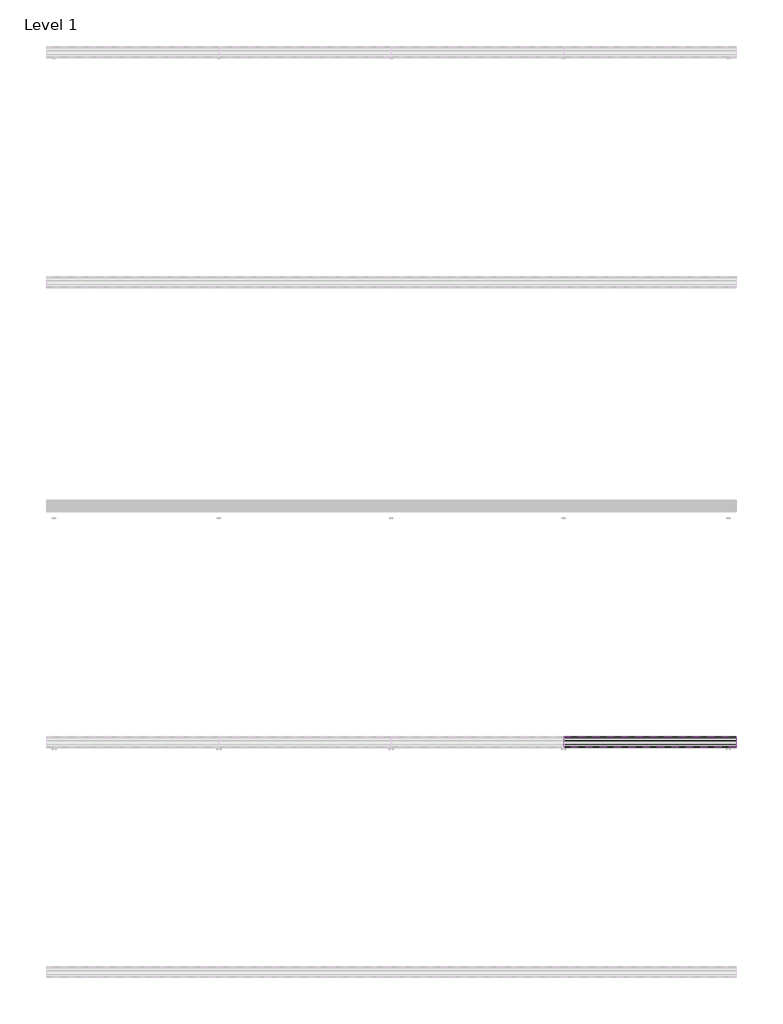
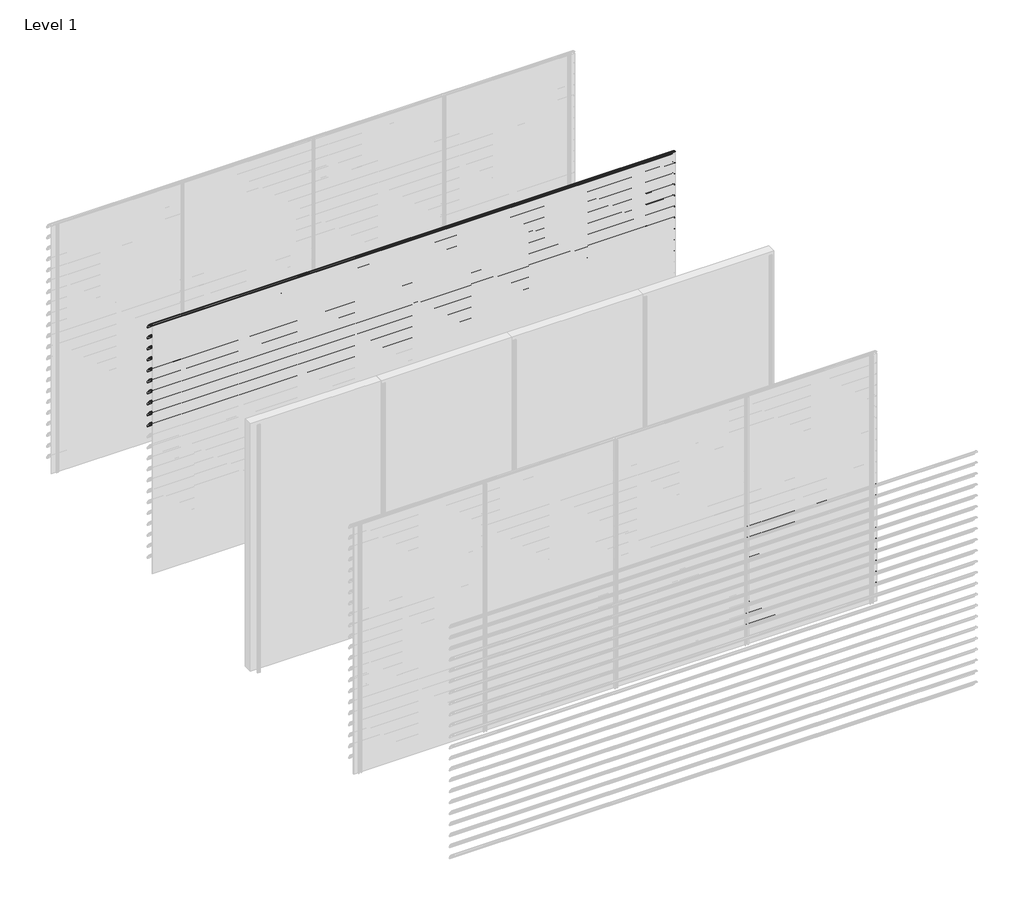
# One storey, part 52 of 57: 20 proxies.
"""IFC4 building model written with IfcOpenShell, lengths in millimetres."""

from ifc_helpers import new_model, si_unit, point, frame, frame_2d, origin, place, context, project, spatial, polyline, circle_curve, trimmed, segment, composite_curve, outline, extrude, element, save

model = new_model("IFC4")

# Units and contexts
model_context = context("Model", 3, world=origin())
ifc_project = project(units=[si_unit("LENGTHUNIT", "METRE", prefix="MILLI")], contexts=[model_context])

# Site, building, storey
site = spatial("IfcSite", under=ifc_project)
building = spatial("IfcBuilding", under=site)
storey = spatial("IfcBuildingStorey", under=building, Name="Level 1", Elevation=0.0)

# Proxies
placement = place(None, origin())
element("IfcBuildingElementProxy", 1, Name="Wall Sweeps", at=placement, inside=storey, context=model_context, shape_type="SweptSolid", body=[
    extrude(outline(composite_curve([segment(trimmed(circle_curve(frame_2d((-1993.7822526, 3016.4913792)), 4.2177474), [point((-1989.6985606, 3017.5462976))], [point((-1993.7822526, 3020.7091266))], False, "CARTESIAN"), True, "CONTINUOUS"), segment(trimmed(circle_curve(frame_2d((-2018.7150834, 2918.2536312)), 105.4456002), [point((-1993.7822526, 3020.7091266))], [point((-1971.7914298, 3012.6832099))], False, "CARTESIAN"), True, "CONTINUOUS"), segment(trimmed(circle_curve(frame_2d((-2061.7199745, 2864.0352476)), 173.7335887), [point((-1971.7914298, 3012.6832099))], [point((-1913.0720121, 2953.9637922))], False, "CARTESIAN"), True, "CONTINUOUS"), segment(trimmed(circle_curve(frame_2d((-2004.9297178, 2902.1860314)), 105.4456002), [point((-1913.0720121, 2953.9637922))], [point((-1903.6249616, 2931.4455765))], False, "CARTESIAN"), True, "CONTINUOUS"), segment(trimmed(circle_curve(frame_2d((-1907.809737, 2930.3307305)), 4.3307305), [point((-1903.6249616, 2931.4455765))], [point((-1909.0769196, 2926.189538))], False, "CARTESIAN"), True, "CONTINUOUS"), segment(polyline([(-1909.0769196, 2926.189538), (-1934.7401984, 2950.9722783)]), True, "CONTINUOUS"), segment(trimmed(circle_curve(frame_2d((-1931.3879574, 2953.2977626)), 4.079877), [point((-1934.7401984, 2950.9722783))], [point((-1930.7310597, 2957.3244091))], False, "CARTESIAN"), True, "CONTINUOUS"), segment(trimmed(circle_curve(frame_2d((-2014.6665585, 2935.2544323)), 86.7885467), [point((-1930.7310597, 2957.3244091))], [point((-1942.3028351, 2983.1683485))], True, "CARTESIAN"), True, "CONTINUOUS"), segment(polyline([(-1942.3028351, 2983.1683485), (-1940.7230099, 2985.9046861)]), True, "CONTINUOUS"), segment(trimmed(circle_curve(frame_2d((-2061.7199745, 2864.0352476)), 171.7335887), [point((-1940.7230099, 2985.9046861))], [point((-1972.7555872, 3010.9289618))], True, "CARTESIAN"), True, "CONTINUOUS"), segment(trimmed(circle_curve(frame_2d((-2018.7150834, 2918.2536312)), 103.4456002), [point((-1972.7555872, 3010.9289618))], [point((-1989.6985606, 3017.5462976))], True, "CARTESIAN"), True, "CONTINUOUS")], self_intersect=False)), frame((0.0, 0.0, 0.0), z_axis=(1.0, 0.0, 0.0), x_axis=(0.0, 1.0, 0.0)), (0.0, 0.0, 1.0), 6000.0),
])
element("IfcBuildingElementProxy", 2, Name="Wall Sweeps", at=placement, inside=storey, context=model_context, shape_type="SweptSolid", body=[
    extrude(outline(composite_curve([segment(trimmed(circle_curve(frame_2d((-1993.7822526, 2883.4913792)), 4.2177474), [point((-1989.6985606, 2884.5462976))], [point((-1993.7822526, 2887.7091266))], False, "CARTESIAN"), True, "CONTINUOUS"), segment(trimmed(circle_curve(frame_2d((-2018.7150834, 2785.2536312)), 105.4456002), [point((-1993.7822526, 2887.7091266))], [point((-1971.7914298, 2879.6832099))], False, "CARTESIAN"), True, "CONTINUOUS"), segment(trimmed(circle_curve(frame_2d((-2061.7199745, 2731.0352476)), 173.7335887), [point((-1971.7914298, 2879.6832099))], [point((-1913.0720121, 2820.9637922))], False, "CARTESIAN"), True, "CONTINUOUS"), segment(trimmed(circle_curve(frame_2d((-2004.9297178, 2769.1860314)), 105.4456002), [point((-1913.0720121, 2820.9637922))], [point((-1903.6249616, 2798.4455765))], False, "CARTESIAN"), True, "CONTINUOUS"), segment(trimmed(circle_curve(frame_2d((-1907.809737, 2797.3307305)), 4.3307305), [point((-1903.6249616, 2798.4455765))], [point((-1909.0769196, 2793.189538))], False, "CARTESIAN"), True, "CONTINUOUS"), segment(polyline([(-1909.0769196, 2793.189538), (-1934.7401984, 2817.9722783)]), True, "CONTINUOUS"), segment(trimmed(circle_curve(frame_2d((-1931.3879574, 2820.2977626)), 4.079877), [point((-1934.7401984, 2817.9722783))], [point((-1930.7310597, 2824.3244091))], False, "CARTESIAN"), True, "CONTINUOUS"), segment(trimmed(circle_curve(frame_2d((-2014.6665585, 2802.2544323)), 86.7885467), [point((-1930.7310597, 2824.3244091))], [point((-1942.3028351, 2850.1683485))], True, "CARTESIAN"), True, "CONTINUOUS"), segment(polyline([(-1942.3028351, 2850.1683485), (-1940.7230099, 2852.9046861)]), True, "CONTINUOUS"), segment(trimmed(circle_curve(frame_2d((-2061.7199745, 2731.0352476)), 171.7335887), [point((-1940.7230099, 2852.9046861))], [point((-1972.7555872, 2877.9289618))], True, "CARTESIAN"), True, "CONTINUOUS"), segment(trimmed(circle_curve(frame_2d((-2018.7150834, 2785.2536312)), 103.4456002), [point((-1972.7555872, 2877.9289618))], [point((-1989.6985606, 2884.5462976))], True, "CARTESIAN"), True, "CONTINUOUS")], self_intersect=False)), frame((0.0, 0.0, 0.0), z_axis=(1.0, 0.0, 0.0), x_axis=(0.0, 1.0, 0.0)), (0.0, 0.0, 1.0), 6000.0),
])
element("IfcBuildingElementProxy", 3, Name="Wall Sweeps", at=placement, inside=storey, context=model_context, shape_type="SweptSolid", body=[
    extrude(outline(composite_curve([segment(trimmed(circle_curve(frame_2d((-1993.7822526, 2750.4913792)), 4.2177474), [point((-1989.6985606, 2751.5462976))], [point((-1993.7822526, 2754.7091266))], False, "CARTESIAN"), True, "CONTINUOUS"), segment(trimmed(circle_curve(frame_2d((-2018.7150834, 2652.2536312)), 105.4456002), [point((-1993.7822526, 2754.7091266))], [point((-1971.7914298, 2746.6832099))], False, "CARTESIAN"), True, "CONTINUOUS"), segment(trimmed(circle_curve(frame_2d((-2061.7199745, 2598.0352476)), 173.7335887), [point((-1971.7914298, 2746.6832099))], [point((-1913.0720121, 2687.9637922))], False, "CARTESIAN"), True, "CONTINUOUS"), segment(trimmed(circle_curve(frame_2d((-2004.9297178, 2636.1860314)), 105.4456002), [point((-1913.0720121, 2687.9637922))], [point((-1903.6249616, 2665.4455765))], False, "CARTESIAN"), True, "CONTINUOUS"), segment(trimmed(circle_curve(frame_2d((-1907.809737, 2664.3307305)), 4.3307305), [point((-1903.6249616, 2665.4455765))], [point((-1909.0769196, 2660.189538))], False, "CARTESIAN"), True, "CONTINUOUS"), segment(polyline([(-1909.0769196, 2660.189538), (-1934.7401984, 2684.9722783)]), True, "CONTINUOUS"), segment(trimmed(circle_curve(frame_2d((-1931.3879574, 2687.2977626)), 4.079877), [point((-1934.7401984, 2684.9722783))], [point((-1930.7310597, 2691.3244091))], False, "CARTESIAN"), True, "CONTINUOUS"), segment(trimmed(circle_curve(frame_2d((-2014.6665585, 2669.2544323)), 86.7885467), [point((-1930.7310597, 2691.3244091))], [point((-1942.3028351, 2717.1683485))], True, "CARTESIAN"), True, "CONTINUOUS"), segment(polyline([(-1942.3028351, 2717.1683485), (-1940.7230099, 2719.9046861)]), True, "CONTINUOUS"), segment(trimmed(circle_curve(frame_2d((-2061.7199745, 2598.0352476)), 171.7335887), [point((-1940.7230099, 2719.9046861))], [point((-1972.7555872, 2744.9289618))], True, "CARTESIAN"), True, "CONTINUOUS"), segment(trimmed(circle_curve(frame_2d((-2018.7150834, 2652.2536312)), 103.4456002), [point((-1972.7555872, 2744.9289618))], [point((-1989.6985606, 2751.5462976))], True, "CARTESIAN"), True, "CONTINUOUS")], self_intersect=False)), frame((0.0, 0.0, 0.0), z_axis=(1.0, 0.0, 0.0), x_axis=(0.0, 1.0, 0.0)), (0.0, 0.0, 1.0), 6000.0),
])
element("IfcBuildingElementProxy", 4, Name="Wall Sweeps", at=placement, inside=storey, context=model_context, shape_type="SweptSolid", body=[
    extrude(outline(composite_curve([segment(trimmed(circle_curve(frame_2d((-1993.7822526, 2617.4913792)), 4.2177474), [point((-1989.6985606, 2618.5462976))], [point((-1993.7822526, 2621.7091266))], False, "CARTESIAN"), True, "CONTINUOUS"), segment(trimmed(circle_curve(frame_2d((-2018.7150834, 2519.2536312)), 105.4456002), [point((-1993.7822526, 2621.7091266))], [point((-1971.7914298, 2613.6832099))], False, "CARTESIAN"), True, "CONTINUOUS"), segment(trimmed(circle_curve(frame_2d((-2061.7199745, 2465.0352476)), 173.7335887), [point((-1971.7914298, 2613.6832099))], [point((-1913.0720121, 2554.9637922))], False, "CARTESIAN"), True, "CONTINUOUS"), segment(trimmed(circle_curve(frame_2d((-2004.9297178, 2503.1860314)), 105.4456002), [point((-1913.0720121, 2554.9637922))], [point((-1903.6249616, 2532.4455765))], False, "CARTESIAN"), True, "CONTINUOUS"), segment(trimmed(circle_curve(frame_2d((-1907.809737, 2531.3307305)), 4.3307305), [point((-1903.6249616, 2532.4455765))], [point((-1909.0769196, 2527.189538))], False, "CARTESIAN"), True, "CONTINUOUS"), segment(polyline([(-1909.0769196, 2527.189538), (-1934.7401984, 2551.9722783)]), True, "CONTINUOUS"), segment(trimmed(circle_curve(frame_2d((-1931.3879574, 2554.2977626)), 4.079877), [point((-1934.7401984, 2551.9722783))], [point((-1930.7310597, 2558.3244091))], False, "CARTESIAN"), True, "CONTINUOUS"), segment(trimmed(circle_curve(frame_2d((-2014.6665585, 2536.2544323)), 86.7885467), [point((-1930.7310597, 2558.3244091))], [point((-1942.3028351, 2584.1683485))], True, "CARTESIAN"), True, "CONTINUOUS"), segment(polyline([(-1942.3028351, 2584.1683485), (-1940.7230099, 2586.9046861)]), True, "CONTINUOUS"), segment(trimmed(circle_curve(frame_2d((-2061.7199745, 2465.0352476)), 171.7335887), [point((-1940.7230099, 2586.9046861))], [point((-1972.7555872, 2611.9289618))], True, "CARTESIAN"), True, "CONTINUOUS"), segment(trimmed(circle_curve(frame_2d((-2018.7150834, 2519.2536312)), 103.4456002), [point((-1972.7555872, 2611.9289618))], [point((-1989.6985606, 2618.5462976))], True, "CARTESIAN"), True, "CONTINUOUS")], self_intersect=False)), frame((0.0, 0.0, 0.0), z_axis=(1.0, 0.0, 0.0), x_axis=(0.0, 1.0, 0.0)), (0.0, 0.0, 1.0), 6000.0),
])
element("IfcBuildingElementProxy", 5, Name="Wall Sweeps", at=placement, inside=storey, context=model_context, shape_type="SweptSolid", body=[
    extrude(outline(composite_curve([segment(trimmed(circle_curve(frame_2d((-1993.7822526, 2484.4913792)), 4.2177474), [point((-1989.6985606, 2485.5462976))], [point((-1993.7822526, 2488.7091266))], False, "CARTESIAN"), True, "CONTINUOUS"), segment(trimmed(circle_curve(frame_2d((-2018.7150834, 2386.2536312)), 105.4456002), [point((-1993.7822526, 2488.7091266))], [point((-1971.7914298, 2480.6832099))], False, "CARTESIAN"), True, "CONTINUOUS"), segment(trimmed(circle_curve(frame_2d((-2061.7199745, 2332.0352476)), 173.7335887), [point((-1971.7914298, 2480.6832099))], [point((-1913.0720121, 2421.9637922))], False, "CARTESIAN"), True, "CONTINUOUS"), segment(trimmed(circle_curve(frame_2d((-2004.9297178, 2370.1860314)), 105.4456002), [point((-1913.0720121, 2421.9637922))], [point((-1903.6249616, 2399.4455765))], False, "CARTESIAN"), True, "CONTINUOUS"), segment(trimmed(circle_curve(frame_2d((-1907.809737, 2398.3307305)), 4.3307305), [point((-1903.6249616, 2399.4455765))], [point((-1909.0769196, 2394.189538))], False, "CARTESIAN"), True, "CONTINUOUS"), segment(polyline([(-1909.0769196, 2394.189538), (-1934.7401984, 2418.9722783)]), True, "CONTINUOUS"), segment(trimmed(circle_curve(frame_2d((-1931.3879574, 2421.2977626)), 4.079877), [point((-1934.7401984, 2418.9722783))], [point((-1930.7310597, 2425.3244091))], False, "CARTESIAN"), True, "CONTINUOUS"), segment(trimmed(circle_curve(frame_2d((-2014.6665585, 2403.2544323)), 86.7885467), [point((-1930.7310597, 2425.3244091))], [point((-1942.3028351, 2451.1683485))], True, "CARTESIAN"), True, "CONTINUOUS"), segment(polyline([(-1942.3028351, 2451.1683485), (-1940.7230099, 2453.9046861)]), True, "CONTINUOUS"), segment(trimmed(circle_curve(frame_2d((-2061.7199745, 2332.0352476)), 171.7335887), [point((-1940.7230099, 2453.9046861))], [point((-1972.7555872, 2478.9289618))], True, "CARTESIAN"), True, "CONTINUOUS"), segment(trimmed(circle_curve(frame_2d((-2018.7150834, 2386.2536312)), 103.4456002), [point((-1972.7555872, 2478.9289618))], [point((-1989.6985606, 2485.5462976))], True, "CARTESIAN"), True, "CONTINUOUS")], self_intersect=False)), frame((0.0, 0.0, 0.0), z_axis=(1.0, 0.0, 0.0), x_axis=(0.0, 1.0, 0.0)), (0.0, 0.0, 1.0), 6000.0),
])
element("IfcBuildingElementProxy", 6, Name="Wall Sweeps", at=placement, inside=storey, context=model_context, shape_type="SweptSolid", body=[
    extrude(outline(composite_curve([segment(trimmed(circle_curve(frame_2d((-1993.7822526, 2351.4913792)), 4.2177474), [point((-1989.6985606, 2352.5462976))], [point((-1993.7822526, 2355.7091266))], False, "CARTESIAN"), True, "CONTINUOUS"), segment(trimmed(circle_curve(frame_2d((-2018.7150834, 2253.2536312)), 105.4456002), [point((-1993.7822526, 2355.7091266))], [point((-1971.7914298, 2347.6832099))], False, "CARTESIAN"), True, "CONTINUOUS"), segment(trimmed(circle_curve(frame_2d((-2061.7199745, 2199.0352476)), 173.7335887), [point((-1971.7914298, 2347.6832099))], [point((-1913.0720121, 2288.9637922))], False, "CARTESIAN"), True, "CONTINUOUS"), segment(trimmed(circle_curve(frame_2d((-2004.9297178, 2237.1860314)), 105.4456002), [point((-1913.0720121, 2288.9637922))], [point((-1903.6249616, 2266.4455765))], False, "CARTESIAN"), True, "CONTINUOUS"), segment(trimmed(circle_curve(frame_2d((-1907.809737, 2265.3307305)), 4.3307305), [point((-1903.6249616, 2266.4455765))], [point((-1909.0769196, 2261.189538))], False, "CARTESIAN"), True, "CONTINUOUS"), segment(polyline([(-1909.0769196, 2261.189538), (-1934.7401984, 2285.9722783)]), True, "CONTINUOUS"), segment(trimmed(circle_curve(frame_2d((-1931.3879574, 2288.2977626)), 4.079877), [point((-1934.7401984, 2285.9722783))], [point((-1930.7310597, 2292.3244091))], False, "CARTESIAN"), True, "CONTINUOUS"), segment(trimmed(circle_curve(frame_2d((-2014.6665585, 2270.2544323)), 86.7885467), [point((-1930.7310597, 2292.3244091))], [point((-1942.3028351, 2318.1683485))], True, "CARTESIAN"), True, "CONTINUOUS"), segment(polyline([(-1942.3028351, 2318.1683485), (-1940.7230099, 2320.9046861)]), True, "CONTINUOUS"), segment(trimmed(circle_curve(frame_2d((-2061.7199745, 2199.0352476)), 171.7335887), [point((-1940.7230099, 2320.9046861))], [point((-1972.7555872, 2345.9289618))], True, "CARTESIAN"), True, "CONTINUOUS"), segment(trimmed(circle_curve(frame_2d((-2018.7150834, 2253.2536312)), 103.4456002), [point((-1972.7555872, 2345.9289618))], [point((-1989.6985606, 2352.5462976))], True, "CARTESIAN"), True, "CONTINUOUS")], self_intersect=False)), frame((0.0, 0.0, 0.0), z_axis=(1.0, 0.0, 0.0), x_axis=(0.0, 1.0, 0.0)), (0.0, 0.0, 1.0), 6000.0),
])
element("IfcBuildingElementProxy", 7, Name="Wall Sweeps", at=placement, inside=storey, context=model_context, shape_type="SweptSolid", body=[
    extrude(outline(composite_curve([segment(trimmed(circle_curve(frame_2d((-1993.7822526, 2218.4913792)), 4.2177474), [point((-1989.6985606, 2219.5462976))], [point((-1993.7822526, 2222.7091266))], False, "CARTESIAN"), True, "CONTINUOUS"), segment(trimmed(circle_curve(frame_2d((-2018.7150834, 2120.2536312)), 105.4456002), [point((-1993.7822526, 2222.7091266))], [point((-1971.7914298, 2214.6832099))], False, "CARTESIAN"), True, "CONTINUOUS"), segment(trimmed(circle_curve(frame_2d((-2061.7199745, 2066.0352476)), 173.7335887), [point((-1971.7914298, 2214.6832099))], [point((-1913.0720121, 2155.9637922))], False, "CARTESIAN"), True, "CONTINUOUS"), segment(trimmed(circle_curve(frame_2d((-2004.9297178, 2104.1860314)), 105.4456002), [point((-1913.0720121, 2155.9637922))], [point((-1903.6249616, 2133.4455765))], False, "CARTESIAN"), True, "CONTINUOUS"), segment(trimmed(circle_curve(frame_2d((-1907.809737, 2132.3307305)), 4.3307305), [point((-1903.6249616, 2133.4455765))], [point((-1909.0769196, 2128.189538))], False, "CARTESIAN"), True, "CONTINUOUS"), segment(polyline([(-1909.0769196, 2128.189538), (-1934.7401984, 2152.9722783)]), True, "CONTINUOUS"), segment(trimmed(circle_curve(frame_2d((-1931.3879574, 2155.2977626)), 4.079877), [point((-1934.7401984, 2152.9722783))], [point((-1930.7310597, 2159.3244091))], False, "CARTESIAN"), True, "CONTINUOUS"), segment(trimmed(circle_curve(frame_2d((-2014.6665585, 2137.2544323)), 86.7885467), [point((-1930.7310597, 2159.3244091))], [point((-1942.3028351, 2185.1683485))], True, "CARTESIAN"), True, "CONTINUOUS"), segment(polyline([(-1942.3028351, 2185.1683485), (-1940.7230099, 2187.9046861)]), True, "CONTINUOUS"), segment(trimmed(circle_curve(frame_2d((-2061.7199745, 2066.0352476)), 171.7335887), [point((-1940.7230099, 2187.9046861))], [point((-1972.7555872, 2212.9289618))], True, "CARTESIAN"), True, "CONTINUOUS"), segment(trimmed(circle_curve(frame_2d((-2018.7150834, 2120.2536312)), 103.4456002), [point((-1972.7555872, 2212.9289618))], [point((-1989.6985606, 2219.5462976))], True, "CARTESIAN"), True, "CONTINUOUS")], self_intersect=False)), frame((0.0, 0.0, 0.0), z_axis=(1.0, 0.0, 0.0), x_axis=(0.0, 1.0, 0.0)), (0.0, 0.0, 1.0), 6000.0),
])
element("IfcBuildingElementProxy", 8, Name="Wall Sweeps", at=placement, inside=storey, context=model_context, shape_type="SweptSolid", body=[
    extrude(outline(composite_curve([segment(trimmed(circle_curve(frame_2d((-1993.7822526, 2085.4913792)), 4.2177474), [point((-1989.6985606, 2086.5462976))], [point((-1993.7822526, 2089.7091266))], False, "CARTESIAN"), True, "CONTINUOUS"), segment(trimmed(circle_curve(frame_2d((-2018.7150834, 1987.2536312)), 105.4456002), [point((-1993.7822526, 2089.7091266))], [point((-1971.7914298, 2081.6832099))], False, "CARTESIAN"), True, "CONTINUOUS"), segment(trimmed(circle_curve(frame_2d((-2061.7199745, 1933.0352476)), 173.7335887), [point((-1971.7914298, 2081.6832099))], [point((-1913.0720121, 2022.9637922))], False, "CARTESIAN"), True, "CONTINUOUS"), segment(trimmed(circle_curve(frame_2d((-2004.9297178, 1971.1860314)), 105.4456002), [point((-1913.0720121, 2022.9637922))], [point((-1903.6249616, 2000.4455765))], False, "CARTESIAN"), True, "CONTINUOUS"), segment(trimmed(circle_curve(frame_2d((-1907.809737, 1999.3307305)), 4.3307305), [point((-1903.6249616, 2000.4455765))], [point((-1909.0769196, 1995.189538))], False, "CARTESIAN"), True, "CONTINUOUS"), segment(polyline([(-1909.0769196, 1995.189538), (-1934.7401984, 2019.9722783)]), True, "CONTINUOUS"), segment(trimmed(circle_curve(frame_2d((-1931.3879574, 2022.2977626)), 4.079877), [point((-1934.7401984, 2019.9722783))], [point((-1930.7310597, 2026.3244091))], False, "CARTESIAN"), True, "CONTINUOUS"), segment(trimmed(circle_curve(frame_2d((-2014.6665585, 2004.2544323)), 86.7885467), [point((-1930.7310597, 2026.3244091))], [point((-1942.3028351, 2052.1683485))], True, "CARTESIAN"), True, "CONTINUOUS"), segment(polyline([(-1942.3028351, 2052.1683485), (-1940.7230099, 2054.9046861)]), True, "CONTINUOUS"), segment(trimmed(circle_curve(frame_2d((-2061.7199745, 1933.0352476)), 171.7335887), [point((-1940.7230099, 2054.9046861))], [point((-1972.7555872, 2079.9289618))], True, "CARTESIAN"), True, "CONTINUOUS"), segment(trimmed(circle_curve(frame_2d((-2018.7150834, 1987.2536312)), 103.4456002), [point((-1972.7555872, 2079.9289618))], [point((-1989.6985606, 2086.5462976))], True, "CARTESIAN"), True, "CONTINUOUS")], self_intersect=False)), frame((0.0, 0.0, 0.0), z_axis=(1.0, 0.0, 0.0), x_axis=(0.0, 1.0, 0.0)), (0.0, 0.0, 1.0), 6000.0),
])
element("IfcBuildingElementProxy", 9, Name="Wall Sweeps", at=placement, inside=storey, context=model_context, shape_type="SweptSolid", body=[
    extrude(outline(composite_curve([segment(trimmed(circle_curve(frame_2d((-1993.7822526, 1952.4913792)), 4.2177474), [point((-1989.6985606, 1953.5462976))], [point((-1993.7822526, 1956.7091266))], False, "CARTESIAN"), True, "CONTINUOUS"), segment(trimmed(circle_curve(frame_2d((-2018.7150834, 1854.2536312)), 105.4456002), [point((-1993.7822526, 1956.7091266))], [point((-1971.7914298, 1948.6832099))], False, "CARTESIAN"), True, "CONTINUOUS"), segment(trimmed(circle_curve(frame_2d((-2061.7199745, 1800.0352476)), 173.7335887), [point((-1971.7914298, 1948.6832099))], [point((-1913.0720121, 1889.9637922))], False, "CARTESIAN"), True, "CONTINUOUS"), segment(trimmed(circle_curve(frame_2d((-2004.9297178, 1838.1860314)), 105.4456002), [point((-1913.0720121, 1889.9637922))], [point((-1903.6249616, 1867.4455765))], False, "CARTESIAN"), True, "CONTINUOUS"), segment(trimmed(circle_curve(frame_2d((-1907.809737, 1866.3307305)), 4.3307305), [point((-1903.6249616, 1867.4455765))], [point((-1909.0769196, 1862.189538))], False, "CARTESIAN"), True, "CONTINUOUS"), segment(polyline([(-1909.0769196, 1862.189538), (-1934.7401984, 1886.9722783)]), True, "CONTINUOUS"), segment(trimmed(circle_curve(frame_2d((-1931.3879574, 1889.2977626)), 4.079877), [point((-1934.7401984, 1886.9722783))], [point((-1930.7310597, 1893.3244091))], False, "CARTESIAN"), True, "CONTINUOUS"), segment(trimmed(circle_curve(frame_2d((-2014.6665585, 1871.2544323)), 86.7885467), [point((-1930.7310597, 1893.3244091))], [point((-1942.3028351, 1919.1683485))], True, "CARTESIAN"), True, "CONTINUOUS"), segment(polyline([(-1942.3028351, 1919.1683485), (-1940.7230099, 1921.9046861)]), True, "CONTINUOUS"), segment(trimmed(circle_curve(frame_2d((-2061.7199745, 1800.0352476)), 171.7335887), [point((-1940.7230099, 1921.9046861))], [point((-1972.7555872, 1946.9289618))], True, "CARTESIAN"), True, "CONTINUOUS"), segment(trimmed(circle_curve(frame_2d((-2018.7150834, 1854.2536312)), 103.4456002), [point((-1972.7555872, 1946.9289618))], [point((-1989.6985606, 1953.5462976))], True, "CARTESIAN"), True, "CONTINUOUS")], self_intersect=False)), frame((0.0, 0.0, 0.0), z_axis=(1.0, 0.0, 0.0), x_axis=(0.0, 1.0, 0.0)), (0.0, 0.0, 1.0), 6000.0),
])
element("IfcBuildingElementProxy", 10, Name="Wall Sweeps", at=placement, inside=storey, context=model_context, shape_type="SweptSolid", body=[
    extrude(outline(composite_curve([segment(trimmed(circle_curve(frame_2d((-1993.7822526, 1819.4913792)), 4.2177474), [point((-1989.6985606, 1820.5462976))], [point((-1993.7822526, 1823.7091266))], False, "CARTESIAN"), True, "CONTINUOUS"), segment(trimmed(circle_curve(frame_2d((-2018.7150834, 1721.2536312)), 105.4456002), [point((-1993.7822526, 1823.7091266))], [point((-1971.7914298, 1815.6832099))], False, "CARTESIAN"), True, "CONTINUOUS"), segment(trimmed(circle_curve(frame_2d((-2061.7199745, 1667.0352476)), 173.7335887), [point((-1971.7914298, 1815.6832099))], [point((-1913.0720121, 1756.9637922))], False, "CARTESIAN"), True, "CONTINUOUS"), segment(trimmed(circle_curve(frame_2d((-2004.9297178, 1705.1860314)), 105.4456002), [point((-1913.0720121, 1756.9637922))], [point((-1903.6249616, 1734.4455765))], False, "CARTESIAN"), True, "CONTINUOUS"), segment(trimmed(circle_curve(frame_2d((-1907.809737, 1733.3307305)), 4.3307305), [point((-1903.6249616, 1734.4455765))], [point((-1909.0769196, 1729.189538))], False, "CARTESIAN"), True, "CONTINUOUS"), segment(polyline([(-1909.0769196, 1729.189538), (-1934.7401984, 1753.9722783)]), True, "CONTINUOUS"), segment(trimmed(circle_curve(frame_2d((-1931.3879574, 1756.2977626)), 4.079877), [point((-1934.7401984, 1753.9722783))], [point((-1930.7310597, 1760.3244091))], False, "CARTESIAN"), True, "CONTINUOUS"), segment(trimmed(circle_curve(frame_2d((-2014.6665585, 1738.2544323)), 86.7885467), [point((-1930.7310597, 1760.3244091))], [point((-1942.3028351, 1786.1683485))], True, "CARTESIAN"), True, "CONTINUOUS"), segment(polyline([(-1942.3028351, 1786.1683485), (-1940.7230099, 1788.9046861)]), True, "CONTINUOUS"), segment(trimmed(circle_curve(frame_2d((-2061.7199745, 1667.0352476)), 171.7335887), [point((-1940.7230099, 1788.9046861))], [point((-1972.7555872, 1813.9289618))], True, "CARTESIAN"), True, "CONTINUOUS"), segment(trimmed(circle_curve(frame_2d((-2018.7150834, 1721.2536312)), 103.4456002), [point((-1972.7555872, 1813.9289618))], [point((-1989.6985606, 1820.5462976))], True, "CARTESIAN"), True, "CONTINUOUS")], self_intersect=False)), frame((0.0, 0.0, 0.0), z_axis=(1.0, 0.0, 0.0), x_axis=(0.0, 1.0, 0.0)), (0.0, 0.0, 1.0), 6000.0),
])
element("IfcBuildingElementProxy", 11, Name="Wall Sweeps", at=placement, inside=storey, context=model_context, shape_type="SweptSolid", body=[
    extrude(outline(composite_curve([segment(trimmed(circle_curve(frame_2d((-5993.7822526, 1420.4913792)), 4.2177474), [point((-5989.6985606, 1421.5462976))], [point((-5993.7822526, 1424.7091266))], False, "CARTESIAN"), True, "CONTINUOUS"), segment(trimmed(circle_curve(frame_2d((-6018.7150834, 1322.2536312)), 105.4456002), [point((-5993.7822526, 1424.7091266))], [point((-5971.7914298, 1416.6832099))], False, "CARTESIAN"), True, "CONTINUOUS"), segment(trimmed(circle_curve(frame_2d((-6061.7199745, 1268.0352476)), 173.7335887), [point((-5971.7914298, 1416.6832099))], [point((-5913.0720121, 1357.9637922))], False, "CARTESIAN"), True, "CONTINUOUS"), segment(trimmed(circle_curve(frame_2d((-6004.9297178, 1306.1860314)), 105.4456002), [point((-5913.0720121, 1357.9637922))], [point((-5903.6249616, 1335.4455765))], False, "CARTESIAN"), True, "CONTINUOUS"), segment(trimmed(circle_curve(frame_2d((-5907.809737, 1334.3307305)), 4.3307305), [point((-5903.6249616, 1335.4455765))], [point((-5909.0769196, 1330.189538))], False, "CARTESIAN"), True, "CONTINUOUS"), segment(polyline([(-5909.0769196, 1330.189538), (-5934.7401984, 1354.9722783)]), True, "CONTINUOUS"), segment(trimmed(circle_curve(frame_2d((-5931.3879574, 1357.2977626)), 4.079877), [point((-5934.7401984, 1354.9722783))], [point((-5930.7310597, 1361.3244091))], False, "CARTESIAN"), True, "CONTINUOUS"), segment(trimmed(circle_curve(frame_2d((-6014.6665585, 1339.2544323)), 86.7885467), [point((-5930.7310597, 1361.3244091))], [point((-5942.3028351, 1387.1683485))], True, "CARTESIAN"), True, "CONTINUOUS"), segment(polyline([(-5942.3028351, 1387.1683485), (-5940.7230099, 1389.9046861)]), True, "CONTINUOUS"), segment(trimmed(circle_curve(frame_2d((-6061.7199745, 1268.0352476)), 171.7335887), [point((-5940.7230099, 1389.9046861))], [point((-5972.7555872, 1414.9289618))], True, "CARTESIAN"), True, "CONTINUOUS"), segment(trimmed(circle_curve(frame_2d((-6018.7150834, 1322.2536312)), 103.4456002), [point((-5972.7555872, 1414.9289618))], [point((-5989.6985606, 1421.5462976))], True, "CARTESIAN"), True, "CONTINUOUS")], self_intersect=False)), frame((4500.0, 0.0, 0.0), z_axis=(1.0, 0.0, 0.0), x_axis=(0.0, 1.0, 0.0)), (0.0, 0.0, 1.0), 1500.0),
])
element("IfcBuildingElementProxy", 12, Name="Wall Sweeps", at=placement, inside=storey, context=model_context, shape_type="SweptSolid", body=[
    extrude(outline(composite_curve([segment(trimmed(circle_curve(frame_2d((-5993.7822526, 1287.4913792)), 4.2177474), [point((-5989.6985606, 1288.5462976))], [point((-5993.7822526, 1291.7091266))], False, "CARTESIAN"), True, "CONTINUOUS"), segment(trimmed(circle_curve(frame_2d((-6018.7150834, 1189.2536312)), 105.4456002), [point((-5993.7822526, 1291.7091266))], [point((-5971.7914298, 1283.6832099))], False, "CARTESIAN"), True, "CONTINUOUS"), segment(trimmed(circle_curve(frame_2d((-6061.7199745, 1135.0352476)), 173.7335887), [point((-5971.7914298, 1283.6832099))], [point((-5913.0720121, 1224.9637922))], False, "CARTESIAN"), True, "CONTINUOUS"), segment(trimmed(circle_curve(frame_2d((-6004.9297178, 1173.1860314)), 105.4456002), [point((-5913.0720121, 1224.9637922))], [point((-5903.6249616, 1202.4455765))], False, "CARTESIAN"), True, "CONTINUOUS"), segment(trimmed(circle_curve(frame_2d((-5907.809737, 1201.3307305)), 4.3307305), [point((-5903.6249616, 1202.4455765))], [point((-5909.0769196, 1197.189538))], False, "CARTESIAN"), True, "CONTINUOUS"), segment(polyline([(-5909.0769196, 1197.189538), (-5934.7401984, 1221.9722783)]), True, "CONTINUOUS"), segment(trimmed(circle_curve(frame_2d((-5931.3879574, 1224.2977626)), 4.079877), [point((-5934.7401984, 1221.9722783))], [point((-5930.7310597, 1228.3244091))], False, "CARTESIAN"), True, "CONTINUOUS"), segment(trimmed(circle_curve(frame_2d((-6014.6665585, 1206.2544323)), 86.7885467), [point((-5930.7310597, 1228.3244091))], [point((-5942.3028351, 1254.1683485))], True, "CARTESIAN"), True, "CONTINUOUS"), segment(polyline([(-5942.3028351, 1254.1683485), (-5940.7230099, 1256.9046861)]), True, "CONTINUOUS"), segment(trimmed(circle_curve(frame_2d((-6061.7199745, 1135.0352476)), 171.7335887), [point((-5940.7230099, 1256.9046861))], [point((-5972.7555872, 1281.9289618))], True, "CARTESIAN"), True, "CONTINUOUS"), segment(trimmed(circle_curve(frame_2d((-6018.7150834, 1189.2536312)), 103.4456002), [point((-5972.7555872, 1281.9289618))], [point((-5989.6985606, 1288.5462976))], True, "CARTESIAN"), True, "CONTINUOUS")], self_intersect=False)), frame((4500.0, 0.0, 0.0), z_axis=(1.0, 0.0, 0.0), x_axis=(0.0, 1.0, 0.0)), (0.0, 0.0, 1.0), 1500.0),
])
element("IfcBuildingElementProxy", 13, Name="Wall Sweeps", at=placement, inside=storey, context=model_context, shape_type="SweptSolid", body=[
    extrude(outline(composite_curve([segment(trimmed(circle_curve(frame_2d((-5993.7822526, 1154.4913792)), 4.2177474), [point((-5989.6985606, 1155.5462976))], [point((-5993.7822526, 1158.7091266))], False, "CARTESIAN"), True, "CONTINUOUS"), segment(trimmed(circle_curve(frame_2d((-6018.7150834, 1056.2536312)), 105.4456002), [point((-5993.7822526, 1158.7091266))], [point((-5971.7914298, 1150.6832099))], False, "CARTESIAN"), True, "CONTINUOUS"), segment(trimmed(circle_curve(frame_2d((-6061.7199745, 1002.0352476)), 173.7335887), [point((-5971.7914298, 1150.6832099))], [point((-5913.0720121, 1091.9637922))], False, "CARTESIAN"), True, "CONTINUOUS"), segment(trimmed(circle_curve(frame_2d((-6004.9297178, 1040.1860314)), 105.4456002), [point((-5913.0720121, 1091.9637922))], [point((-5903.6249616, 1069.4455765))], False, "CARTESIAN"), True, "CONTINUOUS"), segment(trimmed(circle_curve(frame_2d((-5907.809737, 1068.3307305)), 4.3307305), [point((-5903.6249616, 1069.4455765))], [point((-5909.0769196, 1064.189538))], False, "CARTESIAN"), True, "CONTINUOUS"), segment(polyline([(-5909.0769196, 1064.189538), (-5934.7401984, 1088.9722783)]), True, "CONTINUOUS"), segment(trimmed(circle_curve(frame_2d((-5931.3879574, 1091.2977626)), 4.079877), [point((-5934.7401984, 1088.9722783))], [point((-5930.7310597, 1095.3244091))], False, "CARTESIAN"), True, "CONTINUOUS"), segment(trimmed(circle_curve(frame_2d((-6014.6665585, 1073.2544323)), 86.7885467), [point((-5930.7310597, 1095.3244091))], [point((-5942.3028351, 1121.1683485))], True, "CARTESIAN"), True, "CONTINUOUS"), segment(polyline([(-5942.3028351, 1121.1683485), (-5940.7230099, 1123.9046861)]), True, "CONTINUOUS"), segment(trimmed(circle_curve(frame_2d((-6061.7199745, 1002.0352476)), 171.7335887), [point((-5940.7230099, 1123.9046861))], [point((-5972.7555872, 1148.9289618))], True, "CARTESIAN"), True, "CONTINUOUS"), segment(trimmed(circle_curve(frame_2d((-6018.7150834, 1056.2536312)), 103.4456002), [point((-5972.7555872, 1148.9289618))], [point((-5989.6985606, 1155.5462976))], True, "CARTESIAN"), True, "CONTINUOUS")], self_intersect=False)), frame((4500.0, 0.0, 0.0), z_axis=(1.0, 0.0, 0.0), x_axis=(0.0, 1.0, 0.0)), (0.0, 0.0, 1.0), 1500.0),
])
element("IfcBuildingElementProxy", 14, Name="Wall Sweeps", at=placement, inside=storey, context=model_context, shape_type="SweptSolid", body=[
    extrude(outline(composite_curve([segment(trimmed(circle_curve(frame_2d((-5993.7822526, 1021.4913792)), 4.2177474), [point((-5989.6985606, 1022.5462976))], [point((-5993.7822526, 1025.7091266))], False, "CARTESIAN"), True, "CONTINUOUS"), segment(trimmed(circle_curve(frame_2d((-6018.7150834, 923.2536312)), 105.4456002), [point((-5993.7822526, 1025.7091266))], [point((-5971.7914298, 1017.6832099))], False, "CARTESIAN"), True, "CONTINUOUS"), segment(trimmed(circle_curve(frame_2d((-6061.7199745, 869.0352476)), 173.7335887), [point((-5971.7914298, 1017.6832099))], [point((-5913.0720121, 958.9637922))], False, "CARTESIAN"), True, "CONTINUOUS"), segment(trimmed(circle_curve(frame_2d((-6004.9297178, 907.1860314)), 105.4456002), [point((-5913.0720121, 958.9637922))], [point((-5903.6249616, 936.4455765))], False, "CARTESIAN"), True, "CONTINUOUS"), segment(trimmed(circle_curve(frame_2d((-5907.809737, 935.3307305)), 4.3307305), [point((-5903.6249616, 936.4455765))], [point((-5909.0769196, 931.189538))], False, "CARTESIAN"), True, "CONTINUOUS"), segment(polyline([(-5909.0769196, 931.189538), (-5934.7401984, 955.9722783)]), True, "CONTINUOUS"), segment(trimmed(circle_curve(frame_2d((-5931.3879574, 958.2977626)), 4.079877), [point((-5934.7401984, 955.9722783))], [point((-5930.7310597, 962.3244091))], False, "CARTESIAN"), True, "CONTINUOUS"), segment(trimmed(circle_curve(frame_2d((-6014.6665585, 940.2544323)), 86.7885467), [point((-5930.7310597, 962.3244091))], [point((-5942.3028351, 988.1683485))], True, "CARTESIAN"), True, "CONTINUOUS"), segment(polyline([(-5942.3028351, 988.1683485), (-5940.7230099, 990.9046861)]), True, "CONTINUOUS"), segment(trimmed(circle_curve(frame_2d((-6061.7199745, 869.0352476)), 171.7335887), [point((-5940.7230099, 990.9046861))], [point((-5972.7555872, 1015.9289618))], True, "CARTESIAN"), True, "CONTINUOUS"), segment(trimmed(circle_curve(frame_2d((-6018.7150834, 923.2536312)), 103.4456002), [point((-5972.7555872, 1015.9289618))], [point((-5989.6985606, 1022.5462976))], True, "CARTESIAN"), True, "CONTINUOUS")], self_intersect=False)), frame((4500.0, 0.0, 0.0), z_axis=(1.0, 0.0, 0.0), x_axis=(0.0, 1.0, 0.0)), (0.0, 0.0, 1.0), 1500.0),
])
element("IfcBuildingElementProxy", 15, Name="Wall Sweeps", at=placement, inside=storey, context=model_context, shape_type="SweptSolid", body=[
    extrude(outline(composite_curve([segment(trimmed(circle_curve(frame_2d((-5993.7822526, 888.4913792)), 4.2177474), [point((-5989.6985606, 889.5462976))], [point((-5993.7822526, 892.7091266))], False, "CARTESIAN"), True, "CONTINUOUS"), segment(trimmed(circle_curve(frame_2d((-6018.7150834, 790.2536312)), 105.4456002), [point((-5993.7822526, 892.7091266))], [point((-5971.7914298, 884.6832099))], False, "CARTESIAN"), True, "CONTINUOUS"), segment(trimmed(circle_curve(frame_2d((-6061.7199745, 736.0352476)), 173.7335887), [point((-5971.7914298, 884.6832099))], [point((-5913.0720121, 825.9637922))], False, "CARTESIAN"), True, "CONTINUOUS"), segment(trimmed(circle_curve(frame_2d((-6004.9297178, 774.1860314)), 105.4456002), [point((-5913.0720121, 825.9637922))], [point((-5903.6249616, 803.4455765))], False, "CARTESIAN"), True, "CONTINUOUS"), segment(trimmed(circle_curve(frame_2d((-5907.809737, 802.3307305)), 4.3307305), [point((-5903.6249616, 803.4455765))], [point((-5909.0769196, 798.189538))], False, "CARTESIAN"), True, "CONTINUOUS"), segment(polyline([(-5909.0769196, 798.189538), (-5934.7401984, 822.9722783)]), True, "CONTINUOUS"), segment(trimmed(circle_curve(frame_2d((-5931.3879574, 825.2977626)), 4.079877), [point((-5934.7401984, 822.9722783))], [point((-5930.7310597, 829.3244091))], False, "CARTESIAN"), True, "CONTINUOUS"), segment(trimmed(circle_curve(frame_2d((-6014.6665585, 807.2544323)), 86.7885467), [point((-5930.7310597, 829.3244091))], [point((-5942.3028351, 855.1683485))], True, "CARTESIAN"), True, "CONTINUOUS"), segment(polyline([(-5942.3028351, 855.1683485), (-5940.7230099, 857.9046861)]), True, "CONTINUOUS"), segment(trimmed(circle_curve(frame_2d((-6061.7199745, 736.0352476)), 171.7335887), [point((-5940.7230099, 857.9046861))], [point((-5972.7555872, 882.9289618))], True, "CARTESIAN"), True, "CONTINUOUS"), segment(trimmed(circle_curve(frame_2d((-6018.7150834, 790.2536312)), 103.4456002), [point((-5972.7555872, 882.9289618))], [point((-5989.6985606, 889.5462976))], True, "CARTESIAN"), True, "CONTINUOUS")], self_intersect=False)), frame((4500.0, 0.0, 0.0), z_axis=(1.0, 0.0, 0.0), x_axis=(0.0, 1.0, 0.0)), (0.0, 0.0, 1.0), 1500.0),
])
element("IfcBuildingElementProxy", 16, Name="Wall Sweeps", at=placement, inside=storey, context=model_context, shape_type="SweptSolid", body=[
    extrude(outline(composite_curve([segment(trimmed(circle_curve(frame_2d((-5993.7822526, 755.4913792)), 4.2177474), [point((-5989.6985606, 756.5462976))], [point((-5993.7822526, 759.7091266))], False, "CARTESIAN"), True, "CONTINUOUS"), segment(trimmed(circle_curve(frame_2d((-6018.7150834, 657.2536312)), 105.4456002), [point((-5993.7822526, 759.7091266))], [point((-5971.7914298, 751.6832099))], False, "CARTESIAN"), True, "CONTINUOUS"), segment(trimmed(circle_curve(frame_2d((-6061.7199745, 603.0352476)), 173.7335887), [point((-5971.7914298, 751.6832099))], [point((-5913.0720121, 692.9637922))], False, "CARTESIAN"), True, "CONTINUOUS"), segment(trimmed(circle_curve(frame_2d((-6004.9297178, 641.1860314)), 105.4456002), [point((-5913.0720121, 692.9637922))], [point((-5903.6249616, 670.4455765))], False, "CARTESIAN"), True, "CONTINUOUS"), segment(trimmed(circle_curve(frame_2d((-5907.809737, 669.3307305)), 4.3307305), [point((-5903.6249616, 670.4455765))], [point((-5909.0769196, 665.189538))], False, "CARTESIAN"), True, "CONTINUOUS"), segment(polyline([(-5909.0769196, 665.189538), (-5934.7401984, 689.9722783)]), True, "CONTINUOUS"), segment(trimmed(circle_curve(frame_2d((-5931.3879574, 692.2977626)), 4.079877), [point((-5934.7401984, 689.9722783))], [point((-5930.7310597, 696.3244091))], False, "CARTESIAN"), True, "CONTINUOUS"), segment(trimmed(circle_curve(frame_2d((-6014.6665585, 674.2544323)), 86.7885467), [point((-5930.7310597, 696.3244091))], [point((-5942.3028351, 722.1683485))], True, "CARTESIAN"), True, "CONTINUOUS"), segment(polyline([(-5942.3028351, 722.1683485), (-5940.7230099, 724.9046861)]), True, "CONTINUOUS"), segment(trimmed(circle_curve(frame_2d((-6061.7199745, 603.0352476)), 171.7335887), [point((-5940.7230099, 724.9046861))], [point((-5972.7555872, 749.9289618))], True, "CARTESIAN"), True, "CONTINUOUS"), segment(trimmed(circle_curve(frame_2d((-6018.7150834, 657.2536312)), 103.4456002), [point((-5972.7555872, 749.9289618))], [point((-5989.6985606, 756.5462976))], True, "CARTESIAN"), True, "CONTINUOUS")], self_intersect=False)), frame((4500.0, 0.0, 0.0), z_axis=(1.0, 0.0, 0.0), x_axis=(0.0, 1.0, 0.0)), (0.0, 0.0, 1.0), 1500.0),
])
element("IfcBuildingElementProxy", 17, Name="Wall Sweeps", at=placement, inside=storey, context=model_context, shape_type="SweptSolid", body=[
    extrude(outline(composite_curve([segment(trimmed(circle_curve(frame_2d((-5993.7822526, 622.4913792)), 4.2177474), [point((-5989.6985606, 623.5462976))], [point((-5993.7822526, 626.7091266))], False, "CARTESIAN"), True, "CONTINUOUS"), segment(trimmed(circle_curve(frame_2d((-6018.7150834, 524.2536312)), 105.4456002), [point((-5993.7822526, 626.7091266))], [point((-5971.7914298, 618.6832099))], False, "CARTESIAN"), True, "CONTINUOUS"), segment(trimmed(circle_curve(frame_2d((-6061.7199745, 470.0352476)), 173.7335887), [point((-5971.7914298, 618.6832099))], [point((-5913.0720121, 559.9637922))], False, "CARTESIAN"), True, "CONTINUOUS"), segment(trimmed(circle_curve(frame_2d((-6004.9297178, 508.1860314)), 105.4456002), [point((-5913.0720121, 559.9637922))], [point((-5903.6249616, 537.4455765))], False, "CARTESIAN"), True, "CONTINUOUS"), segment(trimmed(circle_curve(frame_2d((-5907.809737, 536.3307305)), 4.3307305), [point((-5903.6249616, 537.4455765))], [point((-5909.0769196, 532.189538))], False, "CARTESIAN"), True, "CONTINUOUS"), segment(polyline([(-5909.0769196, 532.189538), (-5934.7401984, 556.9722783)]), True, "CONTINUOUS"), segment(trimmed(circle_curve(frame_2d((-5931.3879574, 559.2977626)), 4.079877), [point((-5934.7401984, 556.9722783))], [point((-5930.7310597, 563.3244091))], False, "CARTESIAN"), True, "CONTINUOUS"), segment(trimmed(circle_curve(frame_2d((-6014.6665585, 541.2544323)), 86.7885467), [point((-5930.7310597, 563.3244091))], [point((-5942.3028351, 589.1683485))], True, "CARTESIAN"), True, "CONTINUOUS"), segment(polyline([(-5942.3028351, 589.1683485), (-5940.7230099, 591.9046861)]), True, "CONTINUOUS"), segment(trimmed(circle_curve(frame_2d((-6061.7199745, 470.0352476)), 171.7335887), [point((-5940.7230099, 591.9046861))], [point((-5972.7555872, 616.9289618))], True, "CARTESIAN"), True, "CONTINUOUS"), segment(trimmed(circle_curve(frame_2d((-6018.7150834, 524.2536312)), 103.4456002), [point((-5972.7555872, 616.9289618))], [point((-5989.6985606, 623.5462976))], True, "CARTESIAN"), True, "CONTINUOUS")], self_intersect=False)), frame((4500.0, 0.0, 0.0), z_axis=(1.0, 0.0, 0.0), x_axis=(0.0, 1.0, 0.0)), (0.0, 0.0, 1.0), 1500.0),
])
element("IfcBuildingElementProxy", 18, Name="Wall Sweeps", at=placement, inside=storey, context=model_context, shape_type="SweptSolid", body=[
    extrude(outline(composite_curve([segment(trimmed(circle_curve(frame_2d((-5993.7822526, 489.4913792)), 4.2177474), [point((-5989.6985606, 490.5462976))], [point((-5993.7822526, 493.7091266))], False, "CARTESIAN"), True, "CONTINUOUS"), segment(trimmed(circle_curve(frame_2d((-6018.7150834, 391.2536312)), 105.4456002), [point((-5993.7822526, 493.7091266))], [point((-5971.7914298, 485.6832099))], False, "CARTESIAN"), True, "CONTINUOUS"), segment(trimmed(circle_curve(frame_2d((-6061.7199745, 337.0352476)), 173.7335887), [point((-5971.7914298, 485.6832099))], [point((-5913.0720121, 426.9637922))], False, "CARTESIAN"), True, "CONTINUOUS"), segment(trimmed(circle_curve(frame_2d((-6004.9297178, 375.1860314)), 105.4456002), [point((-5913.0720121, 426.9637922))], [point((-5903.6249616, 404.4455765))], False, "CARTESIAN"), True, "CONTINUOUS"), segment(trimmed(circle_curve(frame_2d((-5907.809737, 403.3307305)), 4.3307305), [point((-5903.6249616, 404.4455765))], [point((-5909.0769196, 399.189538))], False, "CARTESIAN"), True, "CONTINUOUS"), segment(polyline([(-5909.0769196, 399.189538), (-5934.7401984, 423.9722783)]), True, "CONTINUOUS"), segment(trimmed(circle_curve(frame_2d((-5931.3879574, 426.2977626)), 4.079877), [point((-5934.7401984, 423.9722783))], [point((-5930.7310597, 430.3244091))], False, "CARTESIAN"), True, "CONTINUOUS"), segment(trimmed(circle_curve(frame_2d((-6014.6665585, 408.2544323)), 86.7885467), [point((-5930.7310597, 430.3244091))], [point((-5942.3028351, 456.1683485))], True, "CARTESIAN"), True, "CONTINUOUS"), segment(polyline([(-5942.3028351, 456.1683485), (-5940.7230099, 458.9046861)]), True, "CONTINUOUS"), segment(trimmed(circle_curve(frame_2d((-6061.7199745, 337.0352476)), 171.7335887), [point((-5940.7230099, 458.9046861))], [point((-5972.7555872, 483.9289618))], True, "CARTESIAN"), True, "CONTINUOUS"), segment(trimmed(circle_curve(frame_2d((-6018.7150834, 391.2536312)), 103.4456002), [point((-5972.7555872, 483.9289618))], [point((-5989.6985606, 490.5462976))], True, "CARTESIAN"), True, "CONTINUOUS")], self_intersect=False)), frame((4500.0, 0.0, 0.0), z_axis=(1.0, 0.0, 0.0), x_axis=(0.0, 1.0, 0.0)), (0.0, 0.0, 1.0), 1500.0),
])
element("IfcBuildingElementProxy", 19, Name="Wall Sweeps", at=placement, inside=storey, context=model_context, shape_type="SweptSolid", body=[
    extrude(outline(composite_curve([segment(trimmed(circle_curve(frame_2d((-5993.7822526, 356.4913792)), 4.2177474), [point((-5989.6985606, 357.5462976))], [point((-5993.7822526, 360.7091266))], False, "CARTESIAN"), True, "CONTINUOUS"), segment(trimmed(circle_curve(frame_2d((-6018.7150834, 258.2536312)), 105.4456002), [point((-5993.7822526, 360.7091266))], [point((-5971.7914298, 352.6832099))], False, "CARTESIAN"), True, "CONTINUOUS"), segment(trimmed(circle_curve(frame_2d((-6061.7199745, 204.0352476)), 173.7335887), [point((-5971.7914298, 352.6832099))], [point((-5913.0720121, 293.9637922))], False, "CARTESIAN"), True, "CONTINUOUS"), segment(trimmed(circle_curve(frame_2d((-6004.9297178, 242.1860314)), 105.4456002), [point((-5913.0720121, 293.9637922))], [point((-5903.6249616, 271.4455765))], False, "CARTESIAN"), True, "CONTINUOUS"), segment(trimmed(circle_curve(frame_2d((-5907.809737, 270.3307305)), 4.3307305), [point((-5903.6249616, 271.4455765))], [point((-5909.0769196, 266.189538))], False, "CARTESIAN"), True, "CONTINUOUS"), segment(polyline([(-5909.0769196, 266.189538), (-5934.7401984, 290.9722783)]), True, "CONTINUOUS"), segment(trimmed(circle_curve(frame_2d((-5931.3879574, 293.2977626)), 4.079877), [point((-5934.7401984, 290.9722783))], [point((-5930.7310597, 297.3244091))], False, "CARTESIAN"), True, "CONTINUOUS"), segment(trimmed(circle_curve(frame_2d((-6014.6665585, 275.2544323)), 86.7885467), [point((-5930.7310597, 297.3244091))], [point((-5942.3028351, 323.1683485))], True, "CARTESIAN"), True, "CONTINUOUS"), segment(polyline([(-5942.3028351, 323.1683485), (-5940.7230099, 325.9046861)]), True, "CONTINUOUS"), segment(trimmed(circle_curve(frame_2d((-6061.7199745, 204.0352476)), 171.7335887), [point((-5940.7230099, 325.9046861))], [point((-5972.7555872, 350.9289618))], True, "CARTESIAN"), True, "CONTINUOUS"), segment(trimmed(circle_curve(frame_2d((-6018.7150834, 258.2536312)), 103.4456002), [point((-5972.7555872, 350.9289618))], [point((-5989.6985606, 357.5462976))], True, "CARTESIAN"), True, "CONTINUOUS")], self_intersect=False)), frame((4500.0, 0.0, 0.0), z_axis=(1.0, 0.0, 0.0), x_axis=(0.0, 1.0, 0.0)), (0.0, 0.0, 1.0), 1500.0),
])
element("IfcBuildingElementProxy", 20, Name="Wall Sweeps", at=placement, inside=storey, context=model_context, shape_type="SweptSolid", body=[
    extrude(outline(composite_curve([segment(trimmed(circle_curve(frame_2d((-5993.7822526, 223.4913792)), 4.2177474), [point((-5989.6985606, 224.5462976))], [point((-5993.7822526, 227.7091266))], False, "CARTESIAN"), True, "CONTINUOUS"), segment(trimmed(circle_curve(frame_2d((-6018.7150834, 125.2536312)), 105.4456002), [point((-5993.7822526, 227.7091266))], [point((-5971.7914298, 219.6832099))], False, "CARTESIAN"), True, "CONTINUOUS"), segment(trimmed(circle_curve(frame_2d((-6061.7199745, 71.0352476)), 173.7335887), [point((-5971.7914298, 219.6832099))], [point((-5913.0720121, 160.9637922))], False, "CARTESIAN"), True, "CONTINUOUS"), segment(trimmed(circle_curve(frame_2d((-6004.9297178, 109.1860314)), 105.4456002), [point((-5913.0720121, 160.9637922))], [point((-5903.6249616, 138.4455765))], False, "CARTESIAN"), True, "CONTINUOUS"), segment(trimmed(circle_curve(frame_2d((-5907.809737, 137.3307305)), 4.3307305), [point((-5903.6249616, 138.4455765))], [point((-5909.0769196, 133.189538))], False, "CARTESIAN"), True, "CONTINUOUS"), segment(polyline([(-5909.0769196, 133.189538), (-5934.7401984, 157.9722783)]), True, "CONTINUOUS"), segment(trimmed(circle_curve(frame_2d((-5931.3879574, 160.2977626)), 4.079877), [point((-5934.7401984, 157.9722783))], [point((-5930.7310597, 164.3244091))], False, "CARTESIAN"), True, "CONTINUOUS"), segment(trimmed(circle_curve(frame_2d((-6014.6665585, 142.2544323)), 86.7885467), [point((-5930.7310597, 164.3244091))], [point((-5942.3028351, 190.1683485))], True, "CARTESIAN"), True, "CONTINUOUS"), segment(polyline([(-5942.3028351, 190.1683485), (-5940.7230099, 192.9046861)]), True, "CONTINUOUS"), segment(trimmed(circle_curve(frame_2d((-6061.7199745, 71.0352476)), 171.7335887), [point((-5940.7230099, 192.9046861))], [point((-5972.7555872, 217.9289618))], True, "CARTESIAN"), True, "CONTINUOUS"), segment(trimmed(circle_curve(frame_2d((-6018.7150834, 125.2536312)), 103.4456002), [point((-5972.7555872, 217.9289618))], [point((-5989.6985606, 224.5462976))], True, "CARTESIAN"), True, "CONTINUOUS")], self_intersect=False)), frame((4500.0, 0.0, 0.0), z_axis=(1.0, 0.0, 0.0), x_axis=(0.0, 1.0, 0.0)), (0.0, 0.0, 1.0), 1500.0),
])

save(model, "model.ifc")
